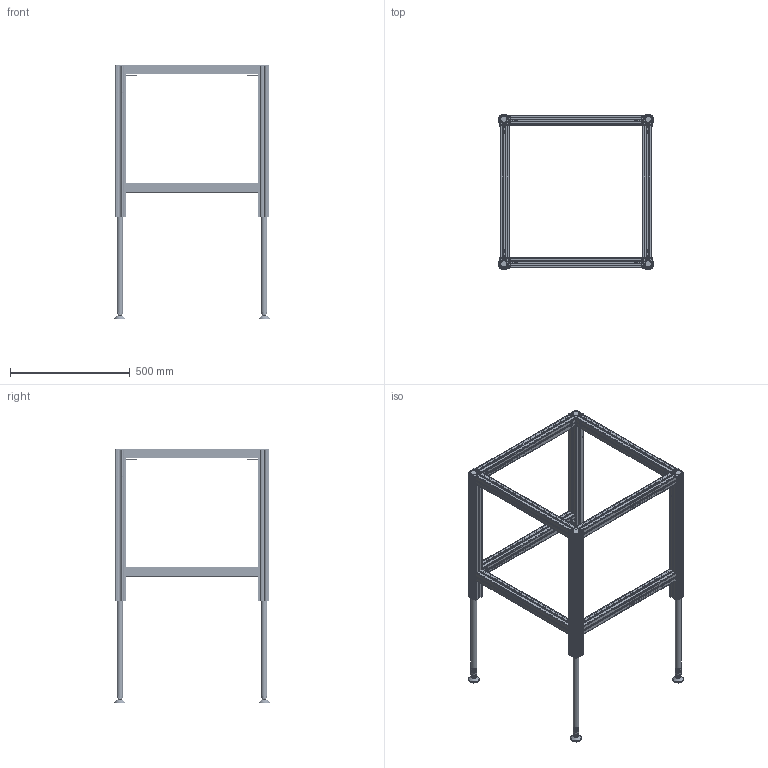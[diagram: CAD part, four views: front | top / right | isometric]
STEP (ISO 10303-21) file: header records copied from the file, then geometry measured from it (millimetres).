
FILE_DESCRIPTION(/* description */ ('Unknown'),/* implementation_level */ '2;1');
FILE_NAME(/* name */ '108.00400_ausgefahren',/* time_stamp */ '2019-08-07T13:41:30+02:00',/* author */ ('Unknown'),/* organization */ ('Unknown'),/* preprocessor_version */ 'ST-DEVELOPER v16.7',/* originating_system */ 'DEX',/* authorisation */ $);
FILE_SCHEMA (('AUTOMOTIVE_DESIGN {1 0 10303 214 3 1 1}'));
Length unit declared in the file: millimetre
Products named in the file (32): 108.00400; 115.00100; 119.00190; 142.00210; 306.00414_oa_0; 142.00014; 119.00224; 122.00005; 142.00020; 113.00002_70mm; 124.00125; 128.00040; 106.00404_oa_1; 107.00404_oa_2; 115.00007_oa_3; 123.00104; 125.00051; 306.00414_oa_4; 106.00404_oa_5; 107.00404_oa_6; 115.00007_oa_7; 306.00414_oa_8; 106.00404_oa_9; 107.00404_oa_10; 115.00007_oa_11; 306.00414_oa_12; 106.00404_oa_13; 107.00404_oa_14; 115.00007_oa_15; 113.00006; 113.00052_ohne Mutter; Mutter M10
Assembly tree (84 placements, depth 5):
  108.00400
    115.00100  x7
      119.00190
      142.00210
    306.00414_oa_0
      142.00014  x2
      119.00224
      122.00005
      142.00020  x4
      113.00002_70mm
      124.00125
      128.00040
      106.00404_oa_1
        107.00404_oa_2
          115.00007_oa_3
        123.00104
        125.00051
    306.00414_oa_4
      142.00014  x2
      119.00224
      122.00005
      142.00020  x4
      113.00002_70mm
      124.00125
      128.00040
      106.00404_oa_5
        107.00404_oa_6
          115.00007_oa_7
        123.00104
        125.00051
    306.00414_oa_8
      142.00014  x2
      119.00224
      122.00005
      142.00020  x4
      113.00002_70mm
      124.00125
      128.00040
      106.00404_oa_9
        107.00404_oa_10
          115.00007_oa_11
        123.00104
        125.00051
    306.00414_oa_12
      142.00014  x2
      119.00224
      122.00005
      142.00020  x4
      113.00002_70mm
      124.00125
      128.00040
      106.00404_oa_13
        107.00404_oa_14
          115.00007_oa_15
        123.00104
        125.00051
    113.00006  x4
      113.00052_ohne Mutter
      Mutter M10
Bounding box: 650.82 x 650.82 x 1063 mm (x, y, z)
Volume: 5275552.7 mm3; surface area: 3572912.4 mm2
Topology: 95 solids, 95 shells, 5997 faces, 16815 edges, 10830 vertices
Faces by surface type: plane 2644, cylinder 2607, cone 254, torus 190, bspline 176, sphere 126
Full cylindrical faces by diameter (mm): 2.2 x4, 2.5 x48, 3 x16, 4 x40, 5 x28, 6.647 x4, 7.8 x14, 8 x4, 8.376 x12, 9.5 x4, 10 x8, 11.3 x14, 11.5 x18, 12 x14, 12.2 x14, 13.5 x14, 13.7 x21, 15 x4, 16 x4, 17.3 x4, 18 x28, 18.1 x14, 19 x8, 20.8 x12, 21 x4, 24 x4, 25 x20, 29 x4, 30 x8, 35 x4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
Entity records: 46264 total; most frequent: CARTESIAN_POINT 9944, ORIENTED_EDGE 7370, DIRECTION 7342, EDGE_CURVE 3685, AXIS2_PLACEMENT_3D 2661, VERTEX_POINT 2440, LINE 2020, VECTOR 2020
